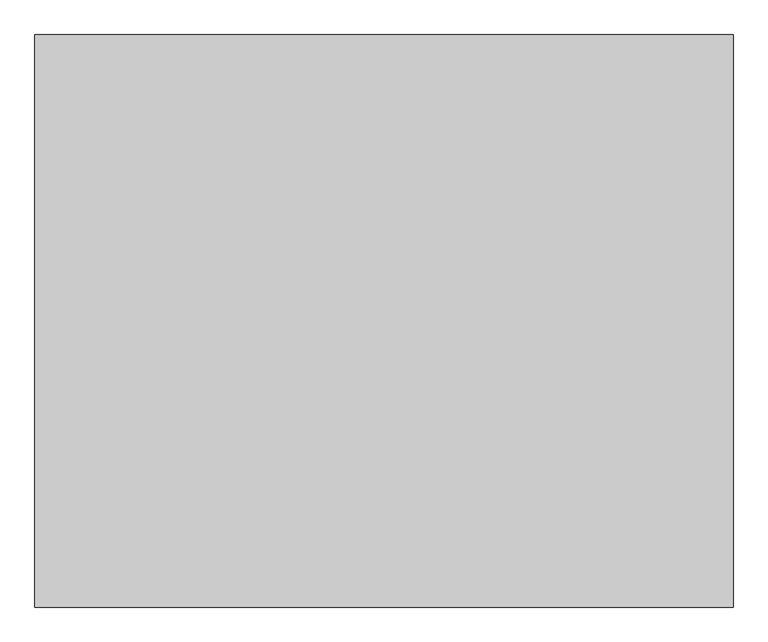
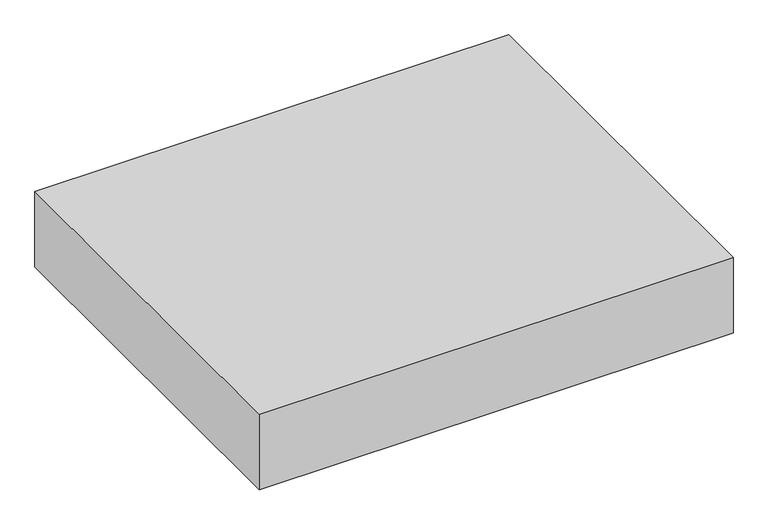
"""IFC4 building model written with IfcOpenShell, lengths in millimetres: furniture geometry, Waikiki : Waikiki 03."""

from ifc_helpers import new_model, si_unit, origin, origin_with_axes, place, context, project, spatial, polyline, outline, extrude, source, transform, mapped, element, save


def furniture_fc90d0a3(model_context):
    return source(origin(), model_context, "Body", "SweptSolid", [
        extrude(outline(polyline([(741.9098791, 608.4877608), (741.9098791, -608.4877608), (-741.9098791, -608.4877608), (-741.9098791, 608.4877608), (741.9098791, 608.4877608)])), origin_with_axes(), (0.0, 0.0, 1.0), 250.0),
    ])


if __name__ == "__main__":
    model = new_model("IFC4")
    model_context = context("Model", 3, world=origin())
    ifc_project = project(units=[si_unit("LENGTHUNIT", "METRE", prefix="MILLI")], contexts=[model_context])
    site = spatial("IfcSite", under=ifc_project)
    building = spatial("IfcBuilding", under=site)
    placement = place(None, origin())
    furniture_shape = furniture_fc90d0a3(model_context)
    element("IfcFurniture", 1, ObjectType="Waikiki : Waikiki 03", at=placement, inside=building, context=model_context, shape_type="MappedRepresentation", body=[
        mapped(furniture_shape, transform((0.0, 0.0, 0.0), x_axis=(1.0, 0.0, 0.0), y_axis=(0.0, 1.0, 0.0), z_axis=(0.0, 0.0, 1.0))),
    ])
    save(model, "model.ifc")
